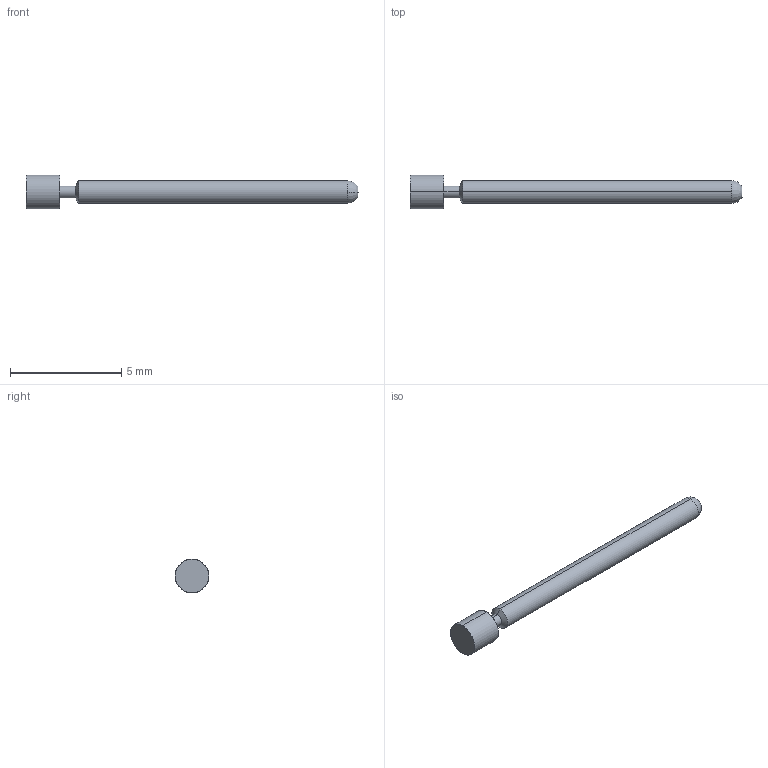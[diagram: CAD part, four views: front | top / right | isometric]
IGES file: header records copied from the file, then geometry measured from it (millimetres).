
Start section: SolidWorks IGES file using analytic representation for surfaces
Global section: file name: Z:\probe solid model mockups\Solidworks models\IGES Files\HPA-1\HPA-1F RECD.IGS; native system: SolidWorks 2006 by SolidWorks Corporation; preprocessor: SolidWorks 2006 by SolidWorks Corporation; author: tsakatani; date: 071220.112242; units: inch
Bounding box: 14.94 x 1.52 x 1.52 mm (x, y, z)
Surface area: 52.9 mm2 (no closed solid volume)
Topology: 0 solids, 0 shells, 13 faces, 108 edges, 108 vertices
Faces by surface type: revolution 10, bspline 3
